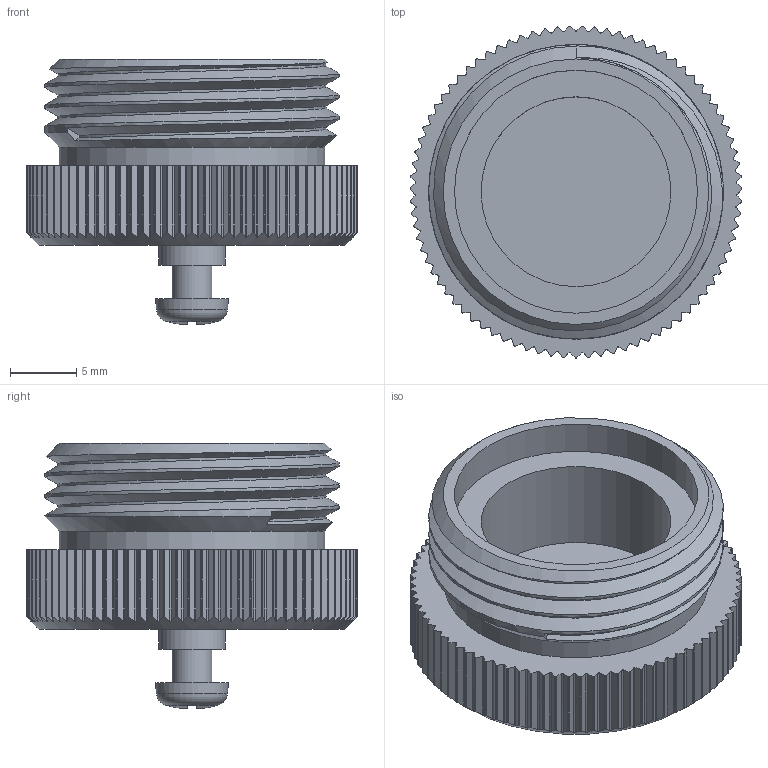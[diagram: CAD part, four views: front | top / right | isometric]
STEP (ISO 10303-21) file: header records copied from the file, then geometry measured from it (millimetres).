
FILE_DESCRIPTION (( 'STEP AP203' ), '1' );
FILE_NAME ('CM03-PRC (without chain).STEP', '2022-04-04T08:31:31', ( '' ), ( '' ), 'SwSTEP 2.0', 'SolidWorks 2018', '' );
FILE_SCHEMA (( 'CONFIG_CONTROL_DESIGN' ));
Length unit declared in the file: millimetre
Products named in the file (1): CM03-PRC (without chain)
Bounding box: 25 x 24.99 x 19.96 mm (x, y, z)
Volume: 3870.4 mm3; surface area: 2899.1 mm2
Topology: 1 solids, 1 shells, 539 faces, 1589 edges, 1058 vertices
Faces by surface type: cylinder 342, plane 187, cone 5, bspline 3, torus 1, sphere 1
Full cylindrical faces by diameter (mm): 3 x1, 5 x1, 14.3 x1, 18.3 x1, 20 x1
Entity records: 36661 total; most frequent: CARTESIAN_POINT 22719, ORIENTED_EDGE 3144, DIRECTION 2660, EDGE_CURVE 1572, VERTEX_POINT 1053, AXIS2_PLACEMENT_3D 984, VECTOR 692, LINE 692
